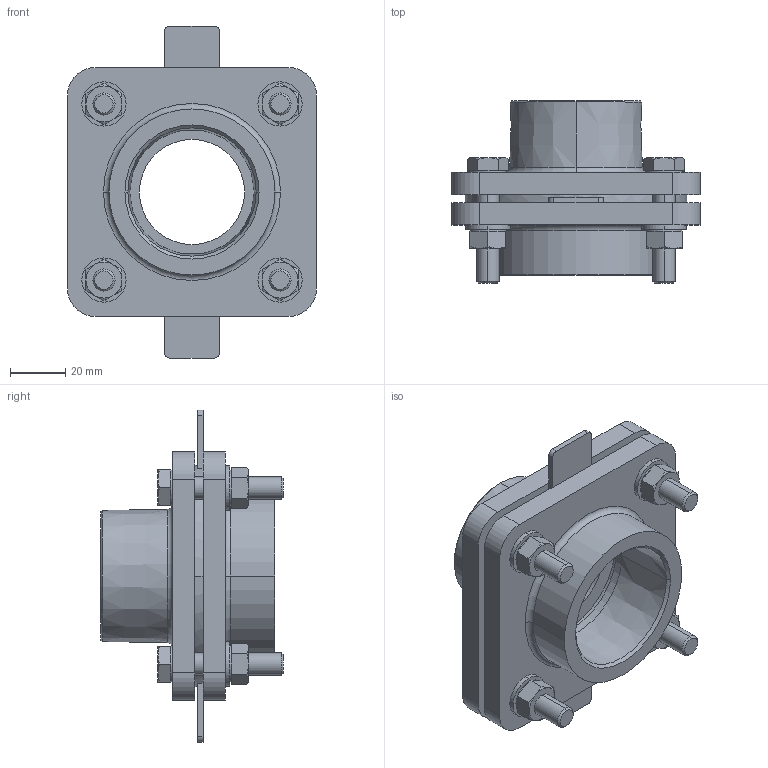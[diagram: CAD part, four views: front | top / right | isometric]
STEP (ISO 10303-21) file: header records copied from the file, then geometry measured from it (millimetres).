
FILE_DESCRIPTION (( 'STEP AP214' ), '1' );
FILE_NAME ('KP_F16-54MF.step', '2012-09-24T15:01:34', ( '' ), ( '' ), 'SwSTEP 2.0', 'SolidWorks 2012', '' );
FILE_SCHEMA (( 'AUTOMOTIVE_DESIGN' ));
Length unit declared in the file: millimetre
Products named in the file (1): KP_F16-54MF
Bounding box: 90 x 66 x 120 mm (x, y, z)
Volume: 166524.6 mm3; surface area: 66792 mm2
Topology: 15 solids, 15 shells, 334 faces, 732 edges, 434 vertices
Faces by surface type: plane 148, cylinder 94, cone 80, torus 12
Entity records: 13324 total; most frequent: CARTESIAN_POINT 2045, DIRECTION 1628, ORIENTED_EDGE 1464, EDGE_CURVE 732, AXIS2_PLACEMENT_3D 657, VERTEX_POINT 434, EDGE_LOOP 378, UNCERTAINTY_MEASURE_WITH_UNIT 351
